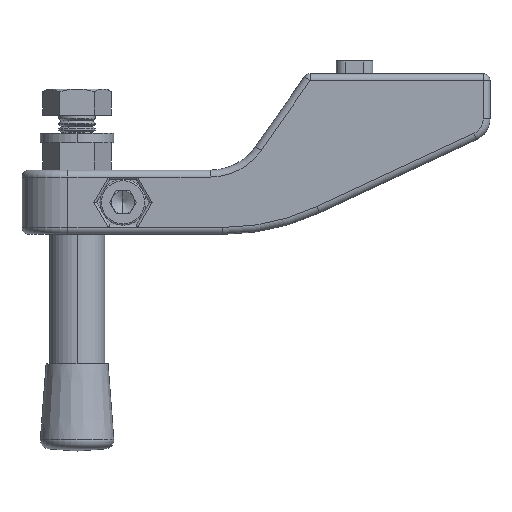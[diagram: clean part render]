
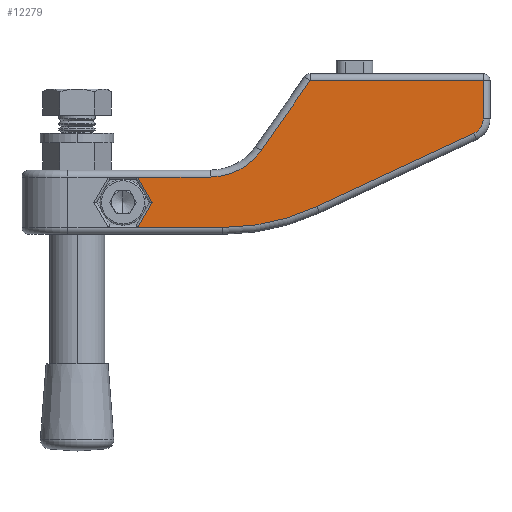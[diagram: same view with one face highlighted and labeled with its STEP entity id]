
A CAD part, left-side view. The second image highlights one B-rep face of the part: STEP entity #12279.
In plain terms, the highlighted planar face has unit normal (-1, 0, 0).
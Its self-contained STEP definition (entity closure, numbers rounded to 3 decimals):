
#880 = DIRECTION ( 'NONE',  ( 0., -0.906, 0.423 ) ) ;
#881 = CARTESIAN_POINT ( 'NONE',  ( 0., 36.68, -12.25 ) ) ;
#885 = CARTESIAN_POINT ( 'NONE',  ( 0., 33.793, -6.75 ) ) ;
#886 = CARTESIAN_POINT ( 'NONE',  ( 0., -36.479, 8.013 ) ) ;
#887 = DIRECTION ( 'NONE',  ( 0., -0.5, -0.866 ) ) ;
#888 = DIRECTION ( 'NONE',  ( 0., 0.5, -0.866 ) ) ;
#889 = CARTESIAN_POINT ( 'NONE',  ( 0., 18.264, -12.5 ) ) ;
#890 = DIRECTION ( 'NONE',  ( 0., -1., 0. ) ) ;
#891 = CARTESIAN_POINT ( 'NONE',  ( 0., -38.5, 21. ) ) ;
#892 = DIRECTION ( 'NONE',  ( 0., 0., 1. ) ) ;
#893 = CARTESIAN_POINT ( 'NONE',  ( 0., 18.264, 36. ) ) ;
#894 = DIRECTION ( 'NONE',  ( -1., 0., 0. ) ) ;
#895 = DIRECTION ( 'NONE',  ( 0., 0., 1. ) ) ;
#896 = CARTESIAN_POINT ( 'NONE',  ( 0., 52., -1.5 ) ) ;
#897 = DIRECTION ( 'NONE',  ( 0., 1., 0. ) ) ;
#898 = CARTESIAN_POINT ( 'NONE',  ( 0., -35., 11.185 ) ) ;
#899 = DIRECTION ( 'NONE',  ( -1., 0., 0. ) ) ;
#900 = DIRECTION ( 'NONE',  ( 0., 0., 1. ) ) ;
#901 = CARTESIAN_POINT ( 'NONE',  ( 0., 0., 19.5 ) ) ;
#902 = DIRECTION ( 'NONE',  ( 0., 1., 0. ) ) ;
#903 = CARTESIAN_POINT ( 'NONE',  ( 0., 9.893, 4.257 ) ) ;
#904 = DIRECTION ( 'NONE',  ( 0., 0.574, -0.819 ) ) ;
#907 = CARTESIAN_POINT ( 'NONE',  ( 0., 20.951, 12. ) ) ;
#908 = DIRECTION ( 'NONE',  ( 1., 0., 0. ) ) ;
#909 = DIRECTION ( 'NONE',  ( 0., 0., 1. ) ) ;
#1883 = VERTEX_POINT ( 'NONE', #6973 ) ;
#1894 = VERTEX_POINT ( 'NONE', #7104 ) ;
#1904 = VERTEX_POINT ( 'NONE', #6969 ) ;
#1918 = VERTEX_POINT ( 'NONE', #6978 ) ;
#1970 = VERTEX_POINT ( 'NONE', #7031 ) ;
#1971 = VERTEX_POINT ( 'NONE', #6930 ) ;
#1978 = VERTEX_POINT ( 'NONE', #6872 ) ;
#2019 = VERTEX_POINT ( 'NONE', #7098 ) ;
#2026 = VERTEX_POINT ( 'NONE', #6987 ) ;
#2075 = VERTEX_POINT ( 'NONE', #7095 ) ;
#2076 = VERTEX_POINT ( 'NONE', #6941 ) ;
#4381 = FACE_OUTER_BOUND ( 'NONE', #7731, .T. ) ;
#5369 = LINE ( 'NONE', #881, #5393 ) ;
#5388 = LINE ( 'NONE', #885, #5391 ) ;
#5391 = VECTOR ( 'NONE', #887, 1000. ) ;
#5392 = LINE ( 'NONE', #889, #5395 ) ;
#5393 = VECTOR ( 'NONE', #888, 1000. ) ;
#5394 = CIRCLE ( 'NONE', #14980, 48.5 ) ;
#5395 = VECTOR ( 'NONE', #890, 1000. ) ;
#5396 = LINE ( 'NONE', #886, #5398 ) ;
#5397 = CIRCLE ( 'NONE', #14981, 3.5 ) ;
#5398 = VECTOR ( 'NONE', #880, 1000. ) ;
#5399 = LINE ( 'NONE', #891, #5401 ) ;
#5400 = LINE ( 'NONE', #901, #5403 ) ;
#5401 = VECTOR ( 'NONE', #892, 1000. ) ;
#5402 = LINE ( 'NONE', #903, #5405 ) ;
#5403 = VECTOR ( 'NONE', #902, 1000. ) ;
#5404 = CIRCLE ( 'NONE', #14982, 13.5 ) ;
#5405 = VECTOR ( 'NONE', #904, 1000. ) ;
#5406 = LINE ( 'NONE', #896, #5410 ) ;
#5410 = VECTOR ( 'NONE', #897, 1000. ) ;
#6872 = CARTESIAN_POINT ( 'NONE',  ( 0., 9.893, 4.257 ) ) ;
#6930 = CARTESIAN_POINT ( 'NONE',  ( 0., 36.825, -12.5 ) ) ;
#6941 = CARTESIAN_POINT ( 'NONE',  ( 0., -36.479, 8.013 ) ) ;
#6969 = CARTESIAN_POINT ( 'NONE',  ( 0., 18.264, -12.5 ) ) ;
#6973 = CARTESIAN_POINT ( 'NONE',  ( 0., -38.5, 19.5 ) ) ;
#6978 = CARTESIAN_POINT ( 'NONE',  ( 0., 36.825, -1.5 ) ) ;
#6987 = CARTESIAN_POINT ( 'NONE',  ( 0., -38.5, 11.185 ) ) ;
#7031 = CARTESIAN_POINT ( 'NONE',  ( 0., 33.649, -7. ) ) ;
#7095 = CARTESIAN_POINT ( 'NONE',  ( 0., -0.781, 19.5 ) ) ;
#7098 = CARTESIAN_POINT ( 'NONE',  ( 0., 20.951, -1.5 ) ) ;
#7104 = CARTESIAN_POINT ( 'NONE',  ( 0., -2.233, -7.956 ) ) ;
#7731 = EDGE_LOOP ( 'NONE', ( #8866, #8867, #8868, #8869, #8870, #8871, #8872, #8873, #8874, #8875, #8876 ) ) ;
#7983 = PLANE ( 'NONE',  #14580 ) ;
#8004 = DIRECTION ( 'NONE',  ( 0., 0., 1. ) ) ;
#8033 = CARTESIAN_POINT ( 'NONE',  ( 0., 62., -14. ) ) ;
#8042 = DIRECTION ( 'NONE',  ( -1., 0., 0. ) ) ;
#8866 = ORIENTED_EDGE ( 'NONE', *, *, #13547, .T. ) ;
#8867 = ORIENTED_EDGE ( 'NONE', *, *, #13548, .T. ) ;
#8868 = ORIENTED_EDGE ( 'NONE', *, *, #13549, .T. ) ;
#8869 = ORIENTED_EDGE ( 'NONE', *, *, #13550, .T. ) ;
#8870 = ORIENTED_EDGE ( 'NONE', *, *, #13551, .T. ) ;
#8871 = ORIENTED_EDGE ( 'NONE', *, *, #13552, .T. ) ;
#8872 = ORIENTED_EDGE ( 'NONE', *, *, #13553, .T. ) ;
#8873 = ORIENTED_EDGE ( 'NONE', *, *, #13554, .T. ) ;
#8874 = ORIENTED_EDGE ( 'NONE', *, *, #13555, .T. ) ;
#8875 = ORIENTED_EDGE ( 'NONE', *, *, #13556, .T. ) ;
#8876 = ORIENTED_EDGE ( 'NONE', *, *, #13557, .T. ) ;
#12279 = ADVANCED_FACE ( 'NONE', ( #4381 ), #7983, .T. ) ;
#13547 = EDGE_CURVE ( 'NONE', #1918, #1970, #5388, .T. ) ;
#13548 = EDGE_CURVE ( 'NONE', #1970, #1971, #5369, .T. ) ;
#13549 = EDGE_CURVE ( 'NONE', #1971, #1904, #5392, .T. ) ;
#13550 = EDGE_CURVE ( 'NONE', #1904, #1894, #5394, .T. ) ;
#13551 = EDGE_CURVE ( 'NONE', #1894, #2076, #5396, .T. ) ;
#13552 = EDGE_CURVE ( 'NONE', #2076, #2026, #5397, .T. ) ;
#13553 = EDGE_CURVE ( 'NONE', #2026, #1883, #5399, .T. ) ;
#13554 = EDGE_CURVE ( 'NONE', #1883, #2075, #5400, .T. ) ;
#13555 = EDGE_CURVE ( 'NONE', #2075, #1978, #5402, .T. ) ;
#13556 = EDGE_CURVE ( 'NONE', #1978, #2019, #5404, .T. ) ;
#13557 = EDGE_CURVE ( 'NONE', #2019, #1918, #5406, .T. ) ;
#14580 = AXIS2_PLACEMENT_3D ( 'NONE', #8033, #8042, #8004 ) ;
#14980 = AXIS2_PLACEMENT_3D ( 'NONE', #893, #894, #895 ) ;
#14981 = AXIS2_PLACEMENT_3D ( 'NONE', #898, #899, #900 ) ;
#14982 = AXIS2_PLACEMENT_3D ( 'NONE', #907, #908, #909 ) ;
